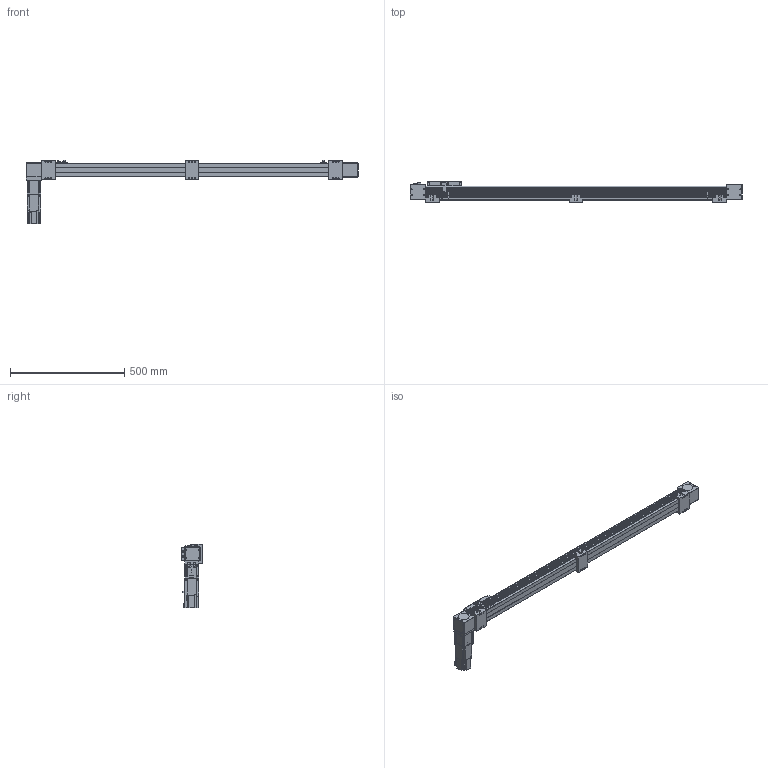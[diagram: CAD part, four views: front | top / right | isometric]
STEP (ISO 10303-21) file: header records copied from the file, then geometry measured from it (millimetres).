
FILE_DESCRIPTION(/* description */ ('STEP AP203'),/* implementation_level */ '2;1');
FILE_NAME(/* name */ 'SK60-P13-S1150-BR-T40-C1-N(0)',/* time_stamp */ '2023-04-06T03:59:44+02:00',/* author */ ('License CC BY-ND 4.0'),/* organization */ ('CADENAS'),/* preprocessor_version */ 'ST-DEVELOPER v19.3',/* originating_system */ 'PARTsolutions',/* authorisation */ ' ');
FILE_SCHEMA (('CONFIG_CONTROL_DESIGN'));
Length unit declared in the file: millimetre
Products named in the file (11): SK60-P13-S1150-BR-T40-C1-N(0); PSC140-sensor; SK60-S450_seat; SK60-S450-BL-C1_slider; SK60_body3; SK60_body6; SK60-BL_body2; T40-p1; SK60_body5; SK60_body4; SK60-S1150-BR-C1_body
Assembly tree (18 placements, depth 2):
  SK60-P13-S1150-BR-T40-C1-N(0)
    PSC140-sensor  x3
    SK60-S450_seat  x3
    SK60-S450-BL-C1_slider
    SK60_body3  x3
    SK60_body6  x2
    SK60-BL_body2  x2
    T40-p1
    SK60_body5
    SK60_body4
    SK60-S1150-BR-C1_body
Bounding box: 1450 x 90 x 279.1 mm (x, y, z)
Volume: 5546376.2 mm3; surface area: 737723.1 mm2
Topology: 18 solids, 22 shells, 878 faces, 2207 edges, 1458 vertices
Faces by surface type: plane 568, cylinder 282, cone 26, torus 2
Full cylindrical faces by diameter (mm): 2.8 x3, 3.3 x4, 4.2 x8, 4.5 x26, 4.6 x3, 4.917 x20, 5 x2, 5.478 x4, 5.5 x23, 6.5 x6, 8 x4, 8.5 x4, 9.988 x4, 10 x12, 13.556 x1, 14 x1, 14.586 x1, 19.692 x1, 38.432 x2, 43 x1, 44 x3, 47 x2, 50 x2
Entity records: 19379 total; most frequent: DIRECTION 3294, CARTESIAN_POINT 3290, ORIENTED_EDGE 3050, EDGE_CURVE 1525, AXIS2_PLACEMENT_3D 1101, LINE 1092, VECTOR 1092, VERTEX_POINT 1077
